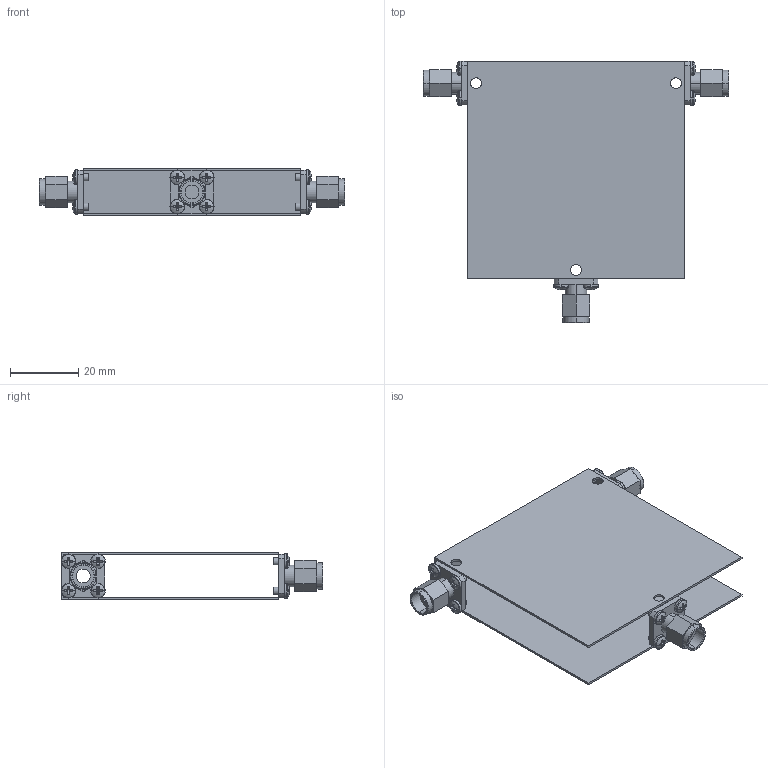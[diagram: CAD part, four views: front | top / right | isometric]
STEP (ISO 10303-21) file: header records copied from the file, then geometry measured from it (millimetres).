
FILE_DESCRIPTION (( 'STEP AP214' ), '1' );
FILE_NAME ('D3C1525-3 2.5x2.5x0.55 MMM.step', '2021-12-01T20:55:19', ( '' ), ( '' ), 'SwSTEP 2.0', 'SolidWorks 2016', '' );
FILE_SCHEMA (( 'AUTOMOTIVE_DESIGN' ));
Length unit declared in the file: inch
Products named in the file (4): D3C1525-3 2.5x2.5x0.55 MMM; pan cross head_ai_CR-PHMS 0.086-56x0.125x0.125-N; Delta SMA-Male; D3I1525 2.5x2.5x0.55
Assembly tree (16 placements, depth 2):
  D3C1525-3 2.5x2.5x0.55 MMM
    D3I1525 2.5x2.5x0.55
    pan cross head_ai_CR-PHMS 0.086-56x0.125x0.125-N  x12
    Delta SMA-Male  x3
Bounding box: 89.26 x 76.47 x 13.97 mm (x, y, z)
Volume: 7493.9 mm3; surface area: 21439.3 mm2
Topology: 16 solids, 16 shells, 439 faces, 1002 edges, 616 vertices
Faces by surface type: plane 253, cylinder 120, torus 42, sphere 24
Entity records: 3046 total; most frequent: DIRECTION 558, CARTESIAN_POINT 477, ORIENTED_EDGE 448, EDGE_CURVE 224, AXIS2_PLACEMENT_3D 223, VERTEX_POINT 142, EDGE_LOOP 118, CIRCLE 112
